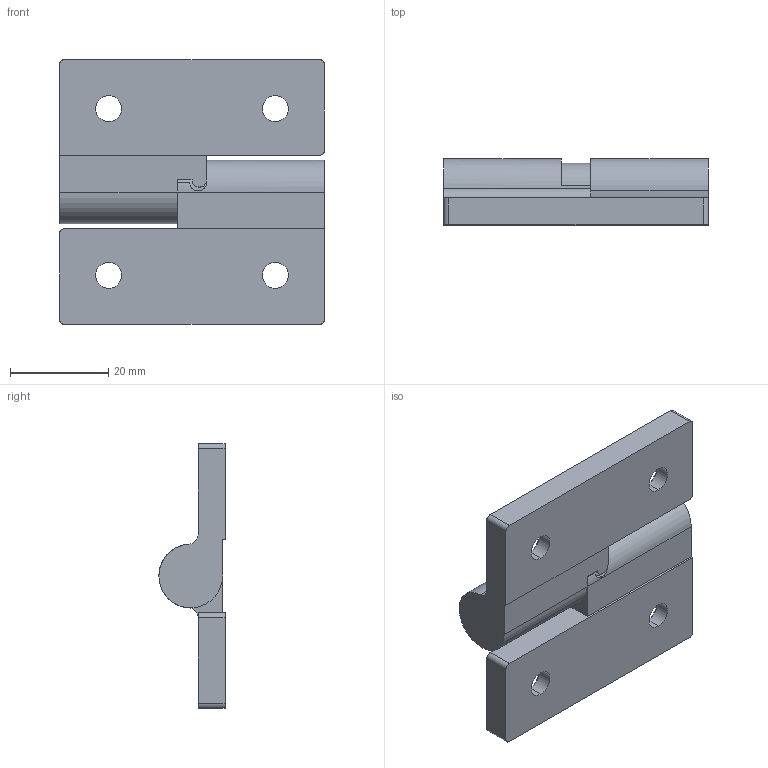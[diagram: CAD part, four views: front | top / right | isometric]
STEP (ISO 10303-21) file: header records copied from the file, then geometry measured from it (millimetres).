
FILE_DESCRIPTION (( 'STEP AP214' ), '1' );
FILE_NAME ('XG11-070.STEP', '2023-08-14T01:08:59', ( '' ), ( '' ), 'SwSTEP 2.0', 'SolidWorks 2019', '' );
FILE_SCHEMA (( 'AUTOMOTIVE_DESIGN' ));
Length unit declared in the file: millimetre
Products named in the file (3): 錨璃1; XG11-070; 錨璃2
Assembly tree (2 placements, depth 2):
  XG11-070
    錨璃2
    錨璃1
Bounding box: 54 x 13.5 x 54 mm (x, y, z)
Volume: 17998.2 mm3; surface area: 9760.5 mm2
Topology: 2 solids, 2 shells, 93 faces, 232 edges, 149 vertices
Faces by surface type: plane 46, cylinder 40, cone 7
Entity records: 3086 total; most frequent: CARTESIAN_POINT 697, DIRECTION 498, ORIENTED_EDGE 464, EDGE_CURVE 232, AXIS2_PLACEMENT_3D 186, VERTEX_POINT 149, LINE 126, VECTOR 126
